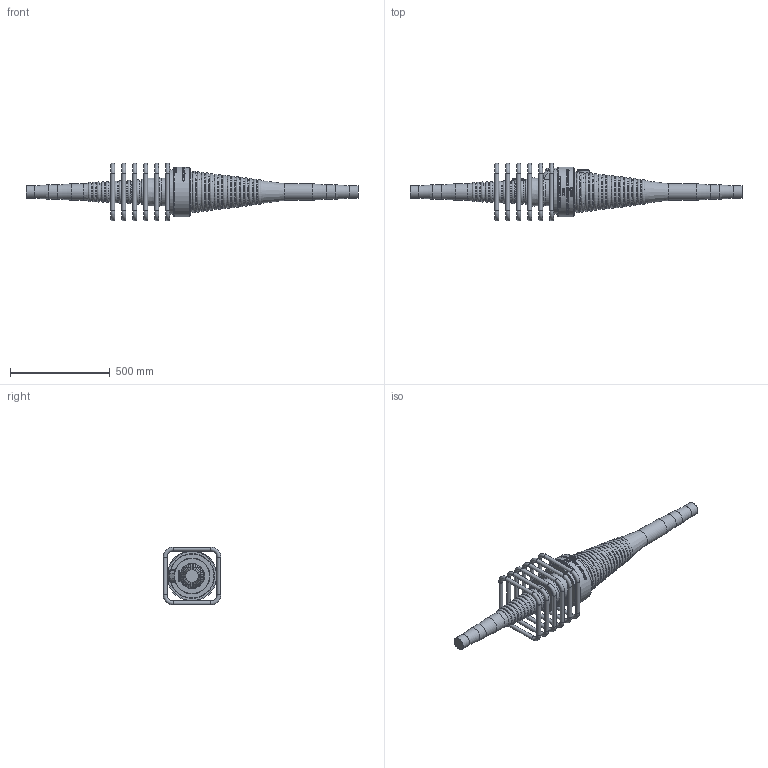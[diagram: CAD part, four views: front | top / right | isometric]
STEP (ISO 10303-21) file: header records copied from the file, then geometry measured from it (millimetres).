
FILE_DESCRIPTION(/* description */ (''),/* implementation_level */ '2;1');
FILE_NAME(/* name */ 'BBR VT CONA CMI BT 1206_Coupler K Assembly_CS-43,35_Stirrup.stp',/* time_stamp */ '2024-10-31T11:41:44+01:00',/* author */ ('tk'),/* organization */ (''),/* preprocessor_version */ 'ST-DEVELOPER v20',/* originating_system */ 'Autodesk Inventor 2024',/* authorisation */ '');
FILE_SCHEMA (('AUTOMOTIVE_DESIGN { 1 0 10303 214 3 1 1 }'));
Products named in the file (1): BBR VT CONA CMI BT 1206_Coupler K Assembly_CS-43,35_Stirrup
Bounding box: 1664.56 x 290 x 290 mm (x, y, z)
Volume: 23218937.7 mm3; surface area: 1121955.8 mm2
Topology: 7 solids, 7 shells, 1085 faces, 2873 edges, 1869 vertices
Faces by surface type: bspline 418, plane 359, torus 127, cylinder 123, cone 34, sphere 24
Full cylindrical faces by diameter (mm): 20 x24, 57 x2, 64 x1, 64.013 x1, 74 x1, 74.013 x1, 84 x1, 84.013 x1, 177.282 x1, 178.841 x1, 240 x1, 246 x1, 250 x1
Entity records: 45762 total; most frequent: CARTESIAN_POINT 19732, ORIENTED_EDGE 5746, DIRECTION 4294, EDGE_CURVE 2873, VERTEX_POINT 1869, AXIS2_PLACEMENT_3D 1594, EDGE_LOOP 1164, LINE 1106
